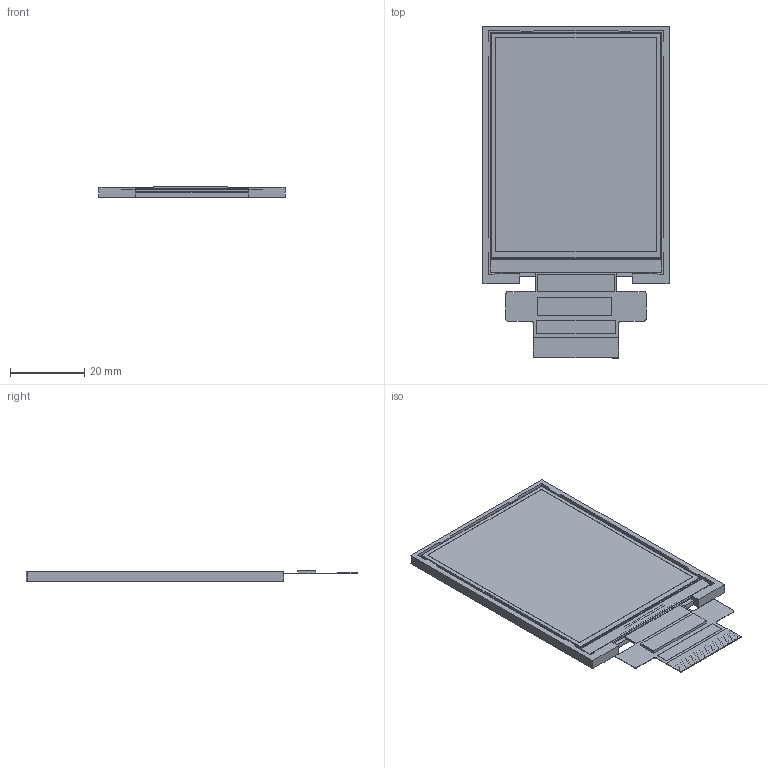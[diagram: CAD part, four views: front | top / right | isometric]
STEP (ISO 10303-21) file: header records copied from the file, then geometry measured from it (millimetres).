
FILE_DESCRIPTION (( 'STEP AP203' ), '1' );
FILE_NAME ('NHD-2.8-240320DA-CTXN_Rev1A.STEP', '2025-02-04T22:58:36', ( '' ), ( '' ), 'SwSTEP 2.0', 'SolidWorks 2019', '' );
FILE_SCHEMA (( 'CONFIG_CONTROL_DESIGN' ));
Length unit declared in the file: millimetre
Products named in the file (2): NHD-2.8-240320DA-CTXN_Rev1A
Bounding box: 50 x 89.2 x 2.95 mm (x, y, z)
Volume: 8690.8 mm3; surface area: 15619.7 mm2
Topology: 3 solids, 3 shells, 368 faces, 914 edges, 609 vertices
Faces by surface type: plane 355, cylinder 13
Entity records: 11100 total; most frequent: CARTESIAN_POINT 2530, ORIENTED_EDGE 1828, DIRECTION 1472, EDGE_CURVE 914, LINE 704, VECTOR 704, VERTEX_POINT 609, EDGE_LOOP 425
